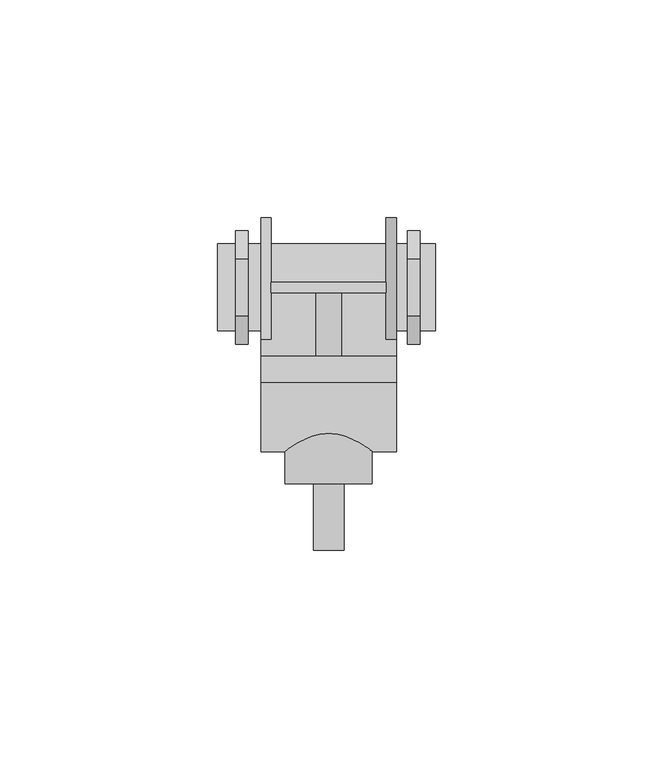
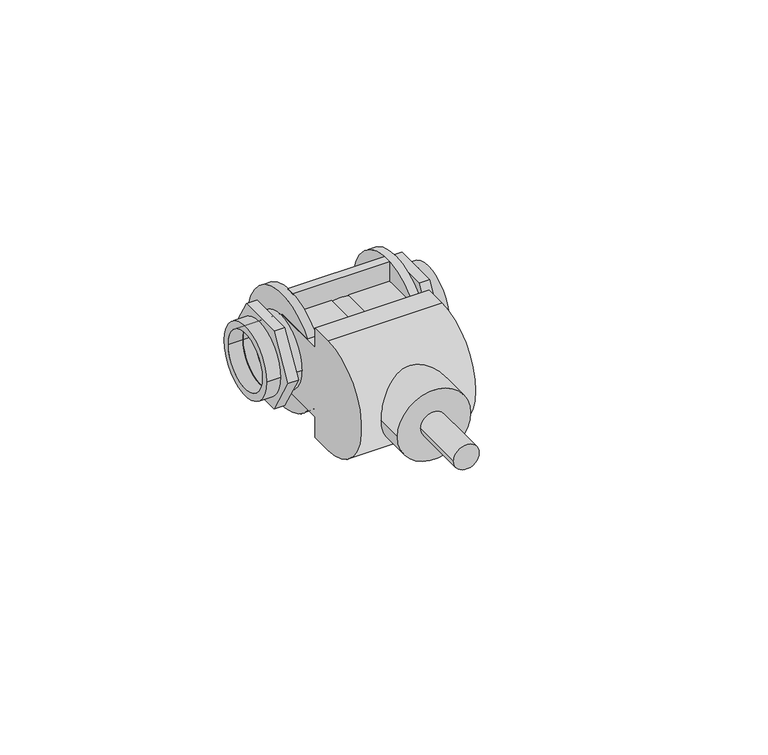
"""IFC4 building model written with IfcOpenShell, lengths in millimetres: valve geometry, Valvula de Empotrar_Lubrizol_CPVC_FlowGuard_MX 13mm : Valvula de Empotrar_Lubrizol_CPVC_FlowGuard_MX 13mm."""

from ifc_helpers import new_model, si_unit, point, frame, frame_2d, origin, origin_2d, place, context, project, spatial, polyline, circle_curve, trimmed, segment, composite_curve, outline, extrude, source, transform, mapped, element, save


def valve_467569c8(model_context):
    return source(origin(), model_context, "Body", "SweptSolid", [
        extrude(outline(composite_curve([segment(trimmed(circle_curve(frame_2d((0.0, 25.5141173)), 3.5), [point((0.0, 22.0141173))], [point((0.0, 29.0141173))], False, "CARTESIAN"), True, "CONTINUOUS"), segment(trimmed(circle_curve(frame_2d((0.0, 25.5141173)), 3.5), [point((0.0, 29.0141173))], [point((0.0, 22.0141173))], False, "CARTESIAN"), True, "CONTINUOUS")], self_intersect=False)), frame((0.0, -60.3424557, 0.0), z_axis=(0.0, 1.0, 0.0), x_axis=(0.0, 0.0, 1.0)), (0.0, 0.0, 1.0), 44.558011),
        extrude(outline(composite_curve([segment(trimmed(circle_curve(frame_2d((0.0, 25.5141173)), 10.0), [point((0.0, 15.5141173))], [point((0.0, 35.5141173))], False, "CARTESIAN"), True, "CONTINUOUS"), segment(trimmed(circle_curve(frame_2d((0.0, 25.5141173)), 10.0), [point((0.0, 35.5141173))], [point((0.0, 15.5141173))], False, "CARTESIAN"), True, "CONTINUOUS")], self_intersect=False)), frame((0.0, -45.0398114, 0.0), z_axis=(0.0, 1.0, 0.0), x_axis=(0.0, 0.0, 1.0)), (0.0, 0.0, 1.0), 45.0398114),
        extrude(outline(composite_curve([segment(polyline([(-21.913321, 15.6761876), (-15.7844447, 15.6761876), (-15.7844447, 10.0), (0.0, 10.0), (0.0, 8.0)]), True, "CONTINUOUS"), segment(trimmed(circle_curve(origin_2d(), 8.0), [point((0.0, 8.0))], [point((0.0, -8.0))], True, "CARTESIAN"), True, "CONTINUOUS"), segment(polyline([(0.0, -8.0), (0.0, -10.0), (-15.7844447, -10.0), (-15.7844447, -15.8995588), (-21.913321, -15.8995588)]), True, "CONTINUOUS"), segment(trimmed(circle_curve(frame_2d((-21.913321, -0.1116856)), 15.7878732), [point((-21.913321, -15.8995588))], [point((-21.913321, 15.6761876))], False, "CARTESIAN"), True, "CONTINUOUS")], self_intersect=False)), frame((9.9435051, 0.0, 0.0), z_axis=(1.0, 0.0, 0.0), x_axis=(0.0, 1.0, 0.0)), (0.0, 0.0, 1.0), 31.1412244),
        extrude(outline(polyline([(38.6873691, 1.2232028), (38.6873691, -1.2232028), (12.3408656, -1.2232028), (12.3408656, 1.2232028), (38.6873691, 1.2232028)])), frame((0.0, 0.0, 8.2759438), z_axis=(0.0, 0.0, 1.0), x_axis=(1.0, 0.0, 0.0)), (0.0, 0.0, 1.0), 7.6738422),
        extrude(outline(polyline([(6.5, 11.2583302), (13.0, 0.0), (6.5, -11.2583302), (-6.5, -11.2583302), (-13.0, 0.0), (-6.5, 11.2583302), (6.5, 11.2583302)]), holes=[composite_curve([segment(trimmed(circle_curve(origin_2d(), 8.0), [point((8.0, 0.0))], [point((-8.0, 0.0))], True, "CARTESIAN"), True, "CONTINUOUS"), segment(trimmed(circle_curve(origin_2d(), 8.0), [point((-8.0, 0.0))], [point((8.0, 0.0))], True, "CARTESIAN"), True, "CONTINUOUS")], self_intersect=False)]), frame((43.6069029, 0.0, 0.0), z_axis=(1.0, 0.0, 0.0), x_axis=(0.0, 1.0, 0.0)), (0.0, 0.0, 1.0), 2.9168685),
        extrude(outline(composite_curve([segment(trimmed(circle_curve(origin_2d(), 16.0), [point((16.0, 0.0))], [point((-16.0, 0.0))], False, "CARTESIAN"), True, "CONTINUOUS"), segment(trimmed(circle_curve(origin_2d(), 16.0), [point((-16.0, 0.0))], [point((16.0, 0.0))], False, "CARTESIAN"), True, "CONTINUOUS")], self_intersect=False), holes=[composite_curve([segment(trimmed(circle_curve(origin_2d(), 8.0), [point((8.0, 0.0))], [point((-8.0, 0.0))], True, "CARTESIAN"), True, "CONTINUOUS"), segment(trimmed(circle_curve(origin_2d(), 8.0), [point((-8.0, 0.0))], [point((8.0, 0.0))], True, "CARTESIAN"), True, "CONTINUOUS")], self_intersect=False)]), frame((38.6873691, 0.0, 0.0), z_axis=(1.0, 0.0, 0.0), x_axis=(0.0, 1.0, 0.0)), (0.0, 0.0, 1.0), 2.3973605),
        extrude(outline(composite_curve([segment(trimmed(circle_curve(origin_2d(), 16.0), [point((16.0, 0.0))], [point((-16.0, 0.0))], False, "CARTESIAN"), True, "CONTINUOUS"), segment(trimmed(circle_curve(origin_2d(), 16.0), [point((-16.0, 0.0))], [point((16.0, 0.0))], False, "CARTESIAN"), True, "CONTINUOUS")], self_intersect=False), holes=[composite_curve([segment(trimmed(circle_curve(origin_2d(), 8.0), [point((8.0, 0.0))], [point((-8.0, 0.0))], True, "CARTESIAN"), True, "CONTINUOUS"), segment(trimmed(circle_curve(origin_2d(), 8.0), [point((-8.0, 0.0))], [point((8.0, 0.0))], True, "CARTESIAN"), True, "CONTINUOUS")], self_intersect=False)]), frame((9.9435051, 0.0, 0.0), z_axis=(1.0, 0.0, 0.0), x_axis=(0.0, 1.0, 0.0)), (0.0, 0.0, 1.0), 2.3973605),
        extrude(outline(polyline([(6.5, 11.2583302), (13.0, 0.0), (6.5, -11.2583302), (-6.5, -11.2583302), (-13.0, 0.0), (-6.5, 11.2583302), (6.5, 11.2583302)]), holes=[composite_curve([segment(trimmed(circle_curve(origin_2d(), 8.0), [point((8.0, 0.0))], [point((-8.0, 0.0))], True, "CARTESIAN"), True, "CONTINUOUS"), segment(trimmed(circle_curve(origin_2d(), 8.0), [point((-8.0, 0.0))], [point((8.0, 0.0))], True, "CARTESIAN"), True, "CONTINUOUS")], self_intersect=False)]), frame((4.1012286, 0.0, 0.0), z_axis=(1.0, 0.0, 0.0), x_axis=(0.0, 1.0, 0.0)), (0.0, 0.0, 1.0), 2.9168685),
        extrude(outline(composite_curve([segment(trimmed(circle_curve(origin_2d(), 10.0), [point((10.0, 0.0))], [point((-10.0, 0.0))], False, "CARTESIAN"), True, "CONTINUOUS"), segment(trimmed(circle_curve(origin_2d(), 10.0), [point((-10.0, 0.0))], [point((10.0, 0.0))], False, "CARTESIAN"), True, "CONTINUOUS")], self_intersect=False), holes=[composite_curve([segment(trimmed(circle_curve(origin_2d(), 8.0), [point((8.0, 0.0))], [point((-8.0, 0.0))], True, "CARTESIAN"), True, "CONTINUOUS"), segment(trimmed(circle_curve(origin_2d(), 8.0), [point((-8.0, 0.0))], [point((8.0, 0.0))], True, "CARTESIAN"), True, "CONTINUOUS")], self_intersect=False)]), frame((0.0, 0.0, 0.0), z_axis=(1.0, 0.0, 0.0), x_axis=(0.0, 1.0, 0.0)), (0.0, 0.0, 1.0), 50.0),
    ])


if __name__ == "__main__":
    model = new_model("IFC4")
    model_context = context("Model", 3, world=origin())
    ifc_project = project(units=[si_unit("LENGTHUNIT", "METRE", prefix="MILLI")], contexts=[model_context])
    site = spatial("IfcSite", under=ifc_project)
    building = spatial("IfcBuilding", under=site)
    placement = place(None, origin())
    valve_shape = valve_467569c8(model_context)
    element("IfcValve", 1, ObjectType="Valvula de Empotrar_Lubrizol_CPVC_FlowGuard_MX 13mm : Valvula de Empotrar_Lubrizol_CPVC_FlowGuard_MX 13mm", at=placement, inside=building, context=model_context, shape_type="MappedRepresentation", body=[
        mapped(valve_shape, transform((0.0, 0.0, 0.0), x_axis=(1.0, 0.0, 0.0), y_axis=(0.0, 1.0, 0.0), z_axis=(0.0, 0.0, 1.0))),
    ])
    save(model, "model.ifc")
